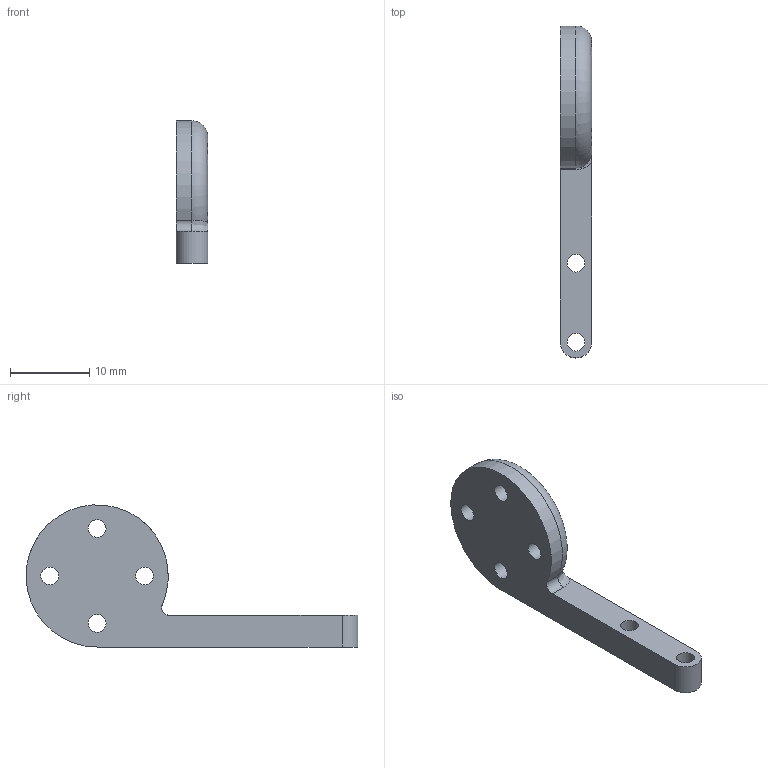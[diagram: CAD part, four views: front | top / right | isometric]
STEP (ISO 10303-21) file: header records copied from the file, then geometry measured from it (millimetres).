
FILE_DESCRIPTION(/* description */ (''),/* implementation_level */ '2;1');
FILE_NAME(/* name */ 'Gimbal yaw horn v10.step',/* time_stamp */ '2025-07-16T17:51:47+08:00',/* author */ (''),/* organization */ (''),/* preprocessor_version */ 'ST-DEVELOPER v20.1',/* originating_system */ 'Autodesk Translation Framework v14.10.0.0',/* authorisation */ '');
FILE_SCHEMA (('AUTOMOTIVE_DESIGN { 1 0 10303 214 3 1 1 }'));
Length unit declared in the file: millimetre
Products named in the file (1): Gimbal yaw horn
Bounding box: 4 x 41.99 x 17.98 mm (x, y, z)
Volume: 1323.1 mm3; surface area: 1238.5 mm2
Topology: 1 solids, 1 shells, 18 faces, 58 edges, 36 vertices
Faces by surface type: cylinder 9, plane 4, bspline 4, torus 1
Full cylindrical faces by diameter (mm): 2.25 x6
Entity records: 811 total; most frequent: CARTESIAN_POINT 269, ORIENTED_EDGE 112, DIRECTION 99, EDGE_CURVE 56, AXIS2_PLACEMENT_3D 41, VERTEX_POINT 36, EDGE_LOOP 26, CIRCLE 26
